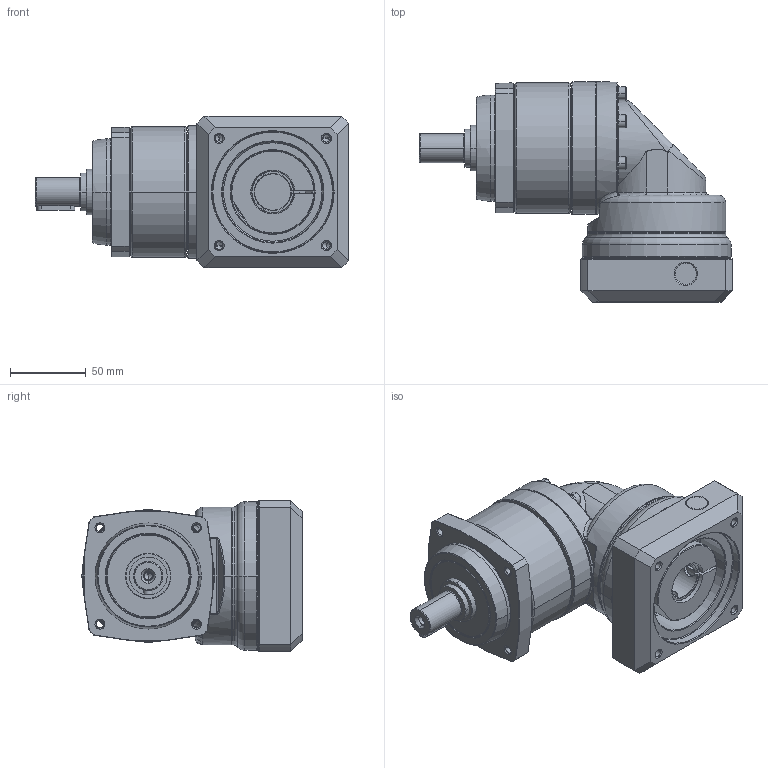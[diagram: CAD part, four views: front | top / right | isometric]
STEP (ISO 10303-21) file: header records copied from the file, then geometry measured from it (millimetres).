
FILE_DESCRIPTION((''),'2;1');
FILE_NAME('PS2R-C_1ST_24-P0411500101_ASM','2016-05-27T',('d01943'),(''),'PRO/ENGINEER BY PARAMETRIC TECHNOLOGY CORPORATION, 2008410','PRO/ENGINEER BY PARAMETRIC TECHNOLOGY CORPORATION, 2008410','');
FILE_SCHEMA(('CONFIG_CONTROL_DESIGN'));
Length unit declared in the file: millimetre
Products named in the file (12): P1328310001; P0250300001; P0350301401; P1349300001; P1017300001; P0713302001; P0503500008; P1350300201; P0411500101; P1702500001; 2111BA05025; PS2R-C_1ST_24-P0411500101_ASM
Assembly tree (16 placements, depth 2):
  PS2R-C_1ST_24-P0411500101_ASM
    P1328310001
    P0250300001
    P0350301401
    P1349300001
    P1017300001
    P0713302001
    P0503500008
    P1350300201
    P0411500101
    P1702500001
    2111BA05025  x6
Bounding box: 206.5 x 145.25 x 100 mm (x, y, z)
Volume: 818666.3 mm3; surface area: 206156.9 mm2
Topology: 16 solids, 16 shells, 795 faces, 1747 edges, 1012 vertices
Faces by surface type: cylinder 248, cone 232, plane 189, torus 92, bspline 34
Entity records: 23348 total; most frequent: CARTESIAN_POINT 9165, DIRECTION 3146, ORIENTED_EDGE 2742, EDGE_CURVE 1371, AXIS2_PLACEMENT_3D 1331, VERTEX_POINT 812, EDGE_LOOP 717, CIRCLE 707
